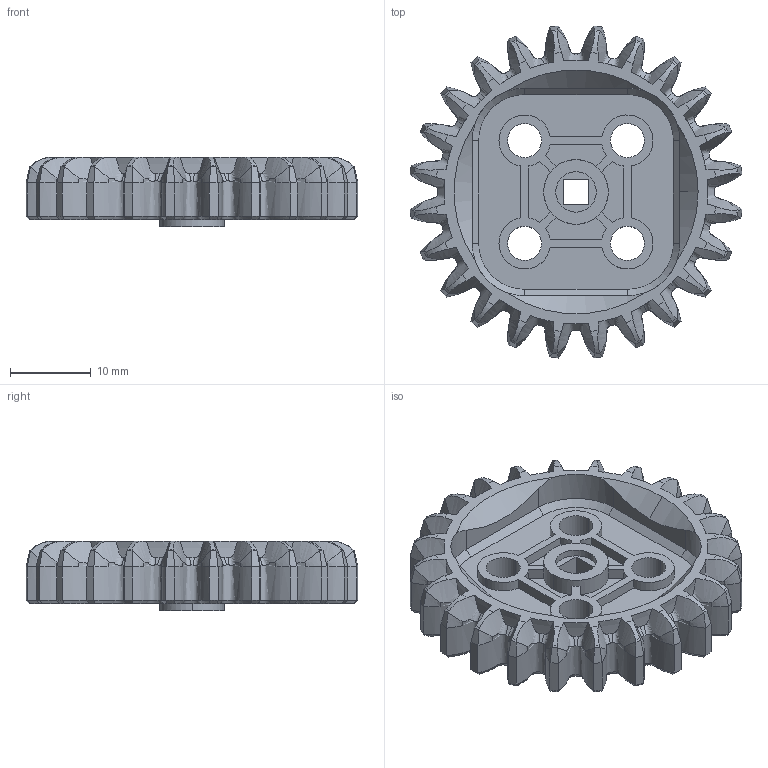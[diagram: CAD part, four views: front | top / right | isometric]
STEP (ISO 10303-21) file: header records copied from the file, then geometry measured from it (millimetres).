
FILE_DESCRIPTION (( 'STEP AP214' ), '1' );
FILE_NAME ('228-2500-2182.STEP', '2021-02-18T20:20:27', ( '' ), ( '' ), 'SwSTEP 2.0', 'SolidWorks 2019', '' );
FILE_SCHEMA (( 'AUTOMOTIVE_DESIGN' ));
Products named in the file (1): 228-2500-2182
Bounding box: 41.05 x 41.05 x 8.64 mm (x, y, z)
Volume: 4586.1 mm3; surface area: 5716.6 mm2
Topology: 1 solids, 1 shells, 649 faces, 1754 edges, 1129 vertices
Faces by surface type: bspline 276, plane 148, cylinder 124, cone 77, torus 24
Entity records: 54978 total; most frequent: CARTESIAN_POINT 41032, ORIENTED_EDGE 3508, DIRECTION 1909, EDGE_CURVE 1754, VERTEX_POINT 1129, B_SPLINE_CURVE_WITH_KNOTS 860, EDGE_LOOP 681, AXIS2_PLACEMENT_3D 674
